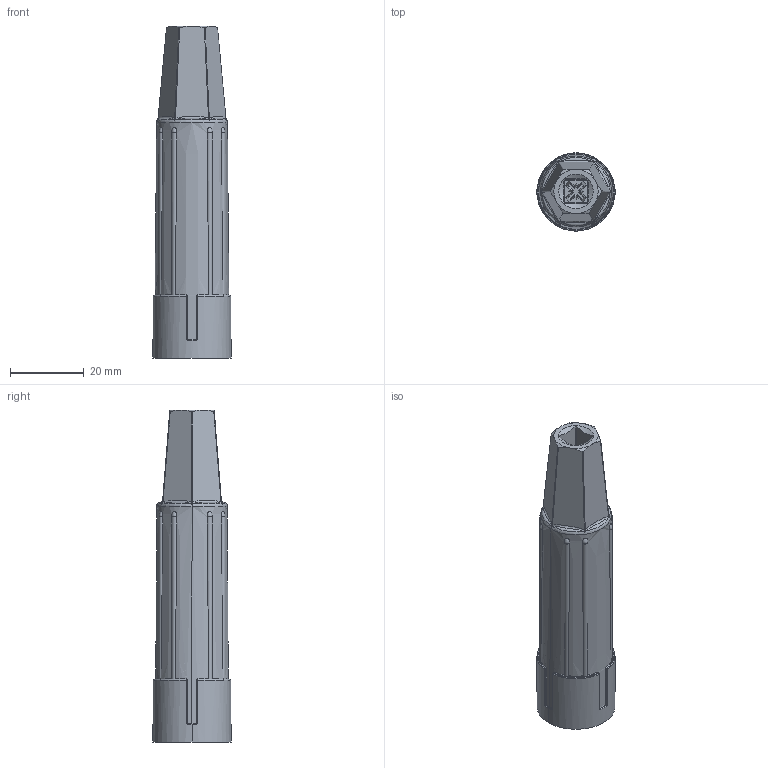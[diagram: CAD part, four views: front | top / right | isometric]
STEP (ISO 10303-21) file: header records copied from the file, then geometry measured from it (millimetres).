
FILE_DESCRIPTION((''),'2;1');
FILE_NAME('10000122857','2010-10-13T',('MEDavids'),('Rockwell Automation'),'PRO/ENGINEER BY PARAMETRIC TECHNOLOGY CORPORATION, 2007390','PRO/ENGINEER BY PARAMETRIC TECHNOLOGY CORPORATION, 2007390','');
FILE_SCHEMA(('CONFIG_CONTROL_DESIGN'));
Length unit declared in the file: millimetre
Products named in the file (1): 10000122857
Bounding box: 21.2 x 21.2 x 90 mm (x, y, z)
Volume: 9755 mm3; surface area: 10302.6 mm2
Topology: 1 solids, 1 shells, 297 faces, 821 edges, 505 vertices
Faces by surface type: plane 81, cylinder 70, torus 48, bspline 46, cone 28, sphere 12, extrusion 12
Entity records: 17260 total; most frequent: CARTESIAN_POINT 10259, ORIENTED_EDGE 1606, DIRECTION 1268, EDGE_CURVE 803, AXIS2_PLACEMENT_3D 514, VERTEX_POINT 505, B_SPLINE_CURVE_WITH_KNOTS 312, EDGE_LOOP 310
